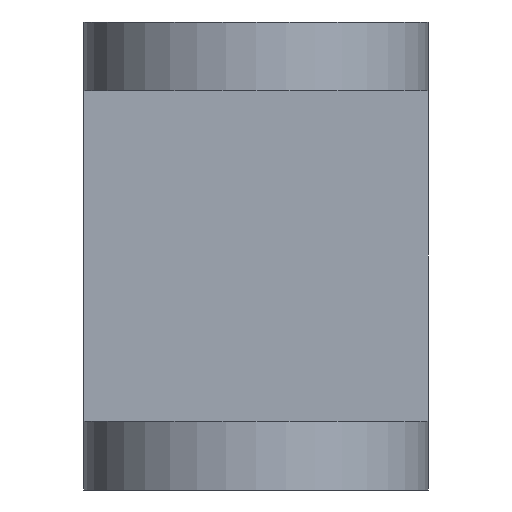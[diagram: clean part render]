
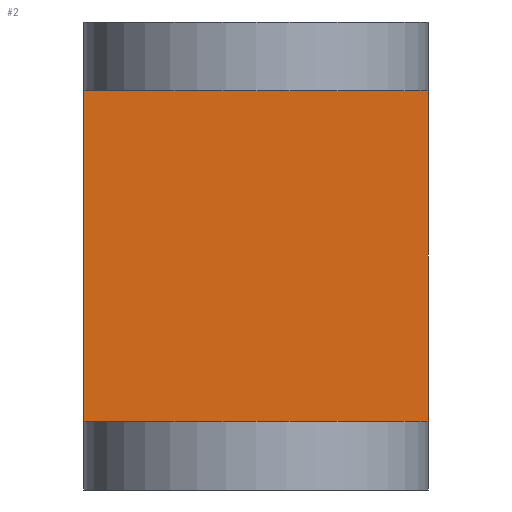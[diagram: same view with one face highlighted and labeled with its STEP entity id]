
A CAD part, front view. The second image highlights one B-rep face of the part: STEP entity #2.
In plain terms, the highlighted planar face has unit normal (0, -1, 0).
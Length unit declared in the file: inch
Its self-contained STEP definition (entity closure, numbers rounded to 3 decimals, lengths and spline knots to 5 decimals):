
#2 = ADVANCED_FACE ( 'NONE', ( #299 ), #501, .T. ) ;
#28 = VERTEX_POINT ( 'NONE', #207 ) ;
#29 = CARTESIAN_POINT ( 'NONE',  ( 2.5, 3.5, 2.9 ) ) ;
#45 = VERTEX_POINT ( 'NONE', #29 ) ;
#55 = EDGE_CURVE ( 'NONE', #28, #334, #556, .T. ) ;
#70 = LINE ( 'NONE', #76, #368 ) ;
#76 = CARTESIAN_POINT ( 'NONE',  ( 2.5, 3.5, 3.4 ) ) ;
#78 = DIRECTION ( 'NONE',  ( 1., 0., 0. ) ) ;
#82 = DIRECTION ( 'NONE',  ( 0., 0., -1. ) ) ;
#122 = VECTOR ( 'NONE', #376, 39.37008 ) ;
#128 = CARTESIAN_POINT ( 'NONE',  ( 0., 3.5, 0.5 ) ) ;
#133 = VERTEX_POINT ( 'NONE', #352 ) ;
#152 = VECTOR ( 'NONE', #82, 39.37008 ) ;
#171 = ORIENTED_EDGE ( 'NONE', *, *, #308, .F. ) ;
#181 = VECTOR ( 'NONE', #78, 39.37008 ) ;
#202 = ORIENTED_EDGE ( 'NONE', *, *, #423, .T. ) ;
#207 = CARTESIAN_POINT ( 'NONE',  ( 0., 3.5, 0.5 ) ) ;
#213 = AXIS2_PLACEMENT_3D ( 'NONE', #424, #553, #338 ) ;
#230 = EDGE_LOOP ( 'NONE', ( #477, #171, #202, #532 ) ) ;
#247 = CARTESIAN_POINT ( 'NONE',  ( 2.5, 3.5, 0.5 ) ) ;
#289 = LINE ( 'NONE', #487, #152 ) ;
#290 = CARTESIAN_POINT ( 'NONE',  ( 0., 3.5, 2.9 ) ) ;
#299 = FACE_OUTER_BOUND ( 'NONE', #230, .T. ) ;
#308 = EDGE_CURVE ( 'NONE', #133, #45, #332, .T. ) ;
#332 = LINE ( 'NONE', #290, #181 ) ;
#334 = VERTEX_POINT ( 'NONE', #247 ) ;
#338 = DIRECTION ( 'NONE',  ( 0., 0., -1. ) ) ;
#352 = CARTESIAN_POINT ( 'NONE',  ( 0., 3.5, 2.9 ) ) ;
#368 = VECTOR ( 'NONE', #406, 39.37008 ) ;
#376 = DIRECTION ( 'NONE',  ( 1., 0., 0. ) ) ;
#406 = DIRECTION ( 'NONE',  ( 0., 0., 1. ) ) ;
#423 = EDGE_CURVE ( 'NONE', #133, #28, #289, .T. ) ;
#424 = CARTESIAN_POINT ( 'NONE',  ( 0., 3.5, 2.9 ) ) ;
#454 = EDGE_CURVE ( 'NONE', #334, #45, #70, .T. ) ;
#477 = ORIENTED_EDGE ( 'NONE', *, *, #454, .T. ) ;
#487 = CARTESIAN_POINT ( 'NONE',  ( 0., 3.5, 2.9 ) ) ;
#501 = PLANE ( 'NONE',  #213 ) ;
#532 = ORIENTED_EDGE ( 'NONE', *, *, #55, .T. ) ;
#553 = DIRECTION ( 'NONE',  ( 0., -1., 0. ) ) ;
#556 = LINE ( 'NONE', #128, #122 ) ;
